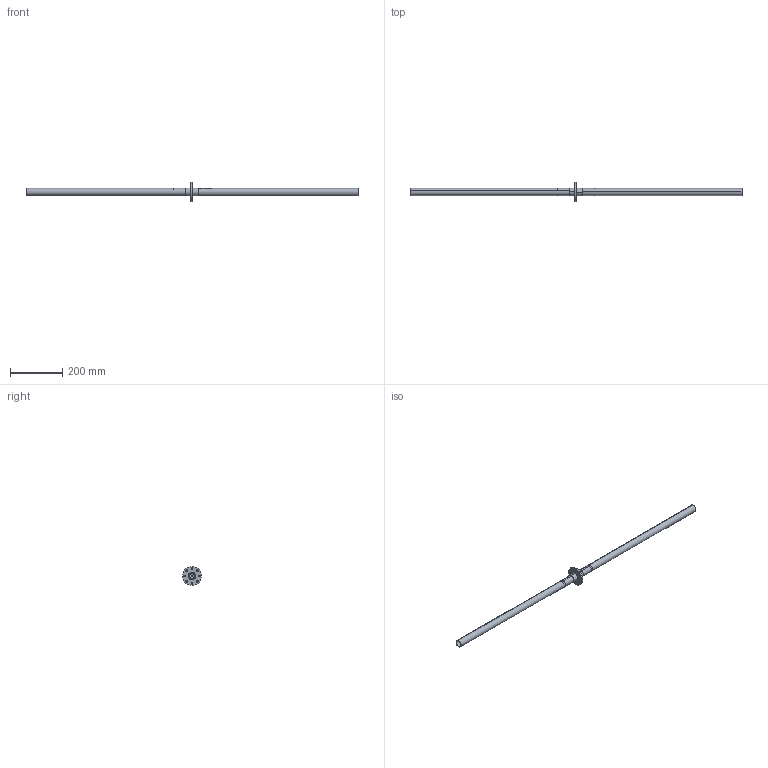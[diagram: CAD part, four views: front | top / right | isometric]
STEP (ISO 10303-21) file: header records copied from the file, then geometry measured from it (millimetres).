
FILE_DESCRIPTION (( 'STEP AP214' ), '1' );
FILE_NAME ('Threaded Hex Bossed End Connector to Hex Keyed Disk to Threaded End Connector.STEP', '2013-09-09T16:20:07', ( 'ydmin' ), ( 'Microsoft' ), 'SwSTEP 2.0', 'SolidWorks 2013', '' );
FILE_SCHEMA (( 'AUTOMOTIVE_DESIGN' ));
Length unit declared in the file: inch
Products named in the file (6): 92311A546_94105A547; 6.000 Inch Tube; DRP-002-0513-00; DRP-002-0546-00; DRP-002-0547-00; Threaded Hex Bossed End Connector to Hex Keyed Disk to Threaded End Connector
Assembly tree (6 placements, depth 2):
  Threaded Hex Bossed End Connector to Hex Keyed Disk to Threaded End Connector
    DRP-002-0547-00
    DRP-002-0546-00
    DRP-002-0513-00
    6.000 Inch Tube  x2
    92311A546_94105A547
Bounding box: 1270.95 x 73.03 x 73.03 mm (x, y, z)
Volume: 169692.9 mm3; surface area: 236482.4 mm2
Topology: 8 solids, 8 shells, 197 faces, 506 edges, 327 vertices
Faces by surface type: cylinder 113, plane 43, bspline 19, cone 18, torus 4
Entity records: 16914 total; most frequent: CARTESIAN_POINT 11060, ORIENTED_EDGE 984, DIRECTION 833, EDGE_CURVE 492, VERTEX_POINT 319, AXIS2_PLACEMENT_3D 314, EDGE_LOOP 219, LINE 205
